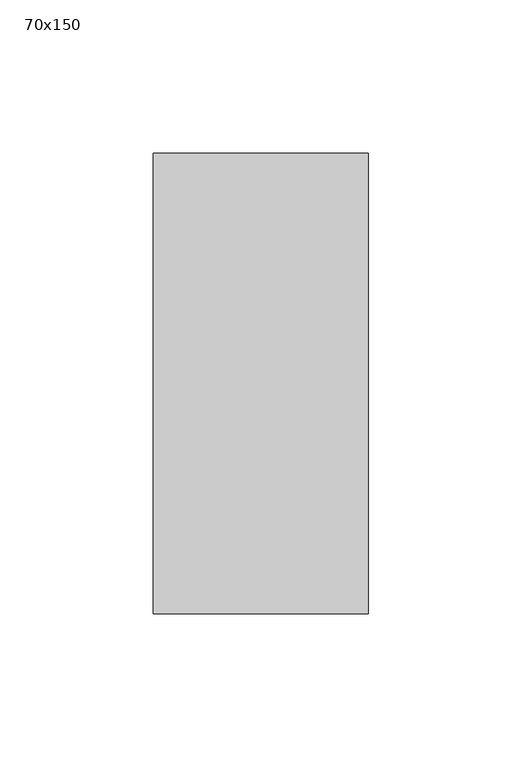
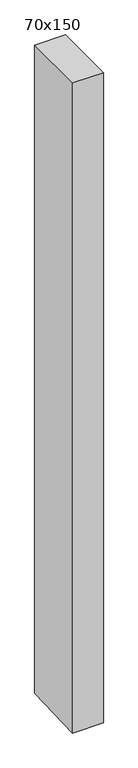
"""IFC4 building model written with IfcOpenShell, lengths in millimetres: member geometry, 長方形のマリオン : 70x150."""

import ifcopenshell
import ifcopenshell.guid

model = None  # the IFC model being written
_history = None  # IfcOwnerHistory: only IFC2X3 demands one
_inside = {}  # id of a spatial element -> (the spatial element, [elements in it])
_under = {}  # id of a project, library or spatial element -> (it, [spatial elements below it])
_declared = {}  # id of a project -> (the project, [libraries it declares])
_typed = {}  # id of a type object -> (the type object, [elements of that type])
_made_of = {}  # id of a material, layer set ... -> (it, [elements and type objects made of it])


def new_model(schema):
    """Start an empty IFC model of exactly this schema.

    Asked for "IFC4X3", IfcOpenShell would pick the latest addendum, in which some entities
    have other attributes; the version numbers below select the first issue.
    IFC2X3 requires an IfcOwnerHistory on every rooted entity: one is made here for all.
    """
    global model, _history
    if schema == "IFC4X3":
        model = ifcopenshell.file(schema_version=(4, 3, 0, 0))
    else:
        model = ifcopenshell.file(schema=schema)
    _inside.clear()
    _under.clear()
    _declared.clear()
    _typed.clear()
    _made_of.clear()
    _history = None
    if model.schema == "IFC2X3":
        org = make("IfcOrganization", Name="unknown")
        user = make(
            "IfcPersonAndOrganization",
            ThePerson=make("IfcPerson", FamilyName="unknown"),
            TheOrganization=org,
        )
        app = make(
            "IfcApplication",
            ApplicationDeveloper=org,
            Version="unknown",
            ApplicationFullName="unknown",
            ApplicationIdentifier="unknown",
        )
        _history = make(
            "IfcOwnerHistory",
            OwningUser=user,
            OwningApplication=app,
            ChangeAction="ADDED",
            CreationDate=0,
        )
    return model


def make(cls, **values):
    """One entity of the class cls with the attributes given. An attribute that is None is left unset."""
    return model.create_entity(
        cls, **{name: value for name, value in values.items() if value is not None}
    )


def rooted(cls, **values):
    """An entity with a GlobalId (a new one), such as an element, a storey or a relation."""
    return make(cls, GlobalId=ifcopenshell.guid.new(), OwnerHistory=_history, **values)


def si_unit(unit_type, name, prefix=None):
    """IfcSIUnit, for example si_unit("LENGTHUNIT", "METRE", prefix="MILLI")."""
    return make("IfcSIUnit", UnitType=unit_type, Prefix=prefix, Name=name)


def assignment(units):
    """IfcUnitAssignment: the units of a project."""
    return None if units is None else make("IfcUnitAssignment", Units=units)


def point(xyz):
    """IfcCartesianPoint."""
    return None if xyz is None else make("IfcCartesianPoint", Coordinates=xyz)


def direction(xyz):
    """IfcDirection."""
    return None if xyz is None else make("IfcDirection", DirectionRatios=xyz)


def frame(location, z_axis=None, x_axis=None):
    """IfcAxis2Placement3D, a coordinate frame: its origin and axes. An axis left out is left unset."""
    return make(
        "IfcAxis2Placement3D",
        Location=point(location),
        Axis=direction(z_axis),
        RefDirection=direction(x_axis),
    )


def origin():
    """The frame at (0, 0, 0) with its axes left unset."""
    return frame((0.0, 0.0, 0.0))


def place(relative_to, where):
    """IfcLocalPlacement: puts the frame where relative to a parent placement (None: the world)."""
    return make(
        "IfcLocalPlacement", PlacementRelTo=relative_to, RelativePlacement=where
    )


def context(
    kind, dimensions, precision=None, world=None, true_north=None, identifier=None
):
    """IfcGeometricRepresentationContext, for example the 3D "Model" context."""
    return make(
        "IfcGeometricRepresentationContext",
        ContextIdentifier=identifier,
        ContextType=kind,
        CoordinateSpaceDimension=dimensions,
        Precision=precision,
        WorldCoordinateSystem=world,
        TrueNorth=true_north,
    )


def project(units=None, contexts=None):
    """IfcProject with its units and contexts."""
    return rooted(
        "IfcProject",
        Name="project",
        RepresentationContexts=contexts,
        UnitsInContext=assignment(units),
    )


def spatial(cls, under=None, at=None, **own):
    """A site, building, storey or space (cls), placed at a placement, below another one or the project."""
    s = rooted(cls, ObjectPlacement=at, **own)
    if under is not None:
        _under.setdefault(under.id(), (under, []))[1].append(s)
    return s


def polyline(points):
    """IfcPolyline through the points."""
    return make("IfcPolyline", Points=[point(p) for p in points])


def outline(outer, holes=None, kind="AREA"):
    """IfcArbitraryClosedProfileDef: a profile drawn as a closed curve; with holes, ...WithVoids."""
    if holes is None:
        return make("IfcArbitraryClosedProfileDef", ProfileType=kind, OuterCurve=outer)
    return make(
        "IfcArbitraryProfileDefWithVoids",
        ProfileType=kind,
        OuterCurve=outer,
        InnerCurves=holes,
    )


def extrude(swept, where, along, depth):
    """IfcExtrudedAreaSolid: the profile swept, set in the frame where, extruded along a direction by depth."""
    return make(
        "IfcExtrudedAreaSolid",
        SweptArea=swept,
        Position=where,
        ExtrudedDirection=direction(along),
        Depth=depth,
    )


def shape(context_of_items, identifier, shape_type, items):
    """IfcShapeRepresentation: the items that make up one representation, for example the "Body"."""
    return make(
        "IfcShapeRepresentation",
        ContextOfItems=context_of_items,
        RepresentationIdentifier=identifier,
        RepresentationType=shape_type,
        Items=items,
    )


def source(mapping_origin, context_of_items, identifier, shape_type, items):
    """IfcRepresentationMap: a shape defined once, which mapped items show again and again."""
    return make(
        "IfcRepresentationMap",
        MappingOrigin=mapping_origin,
        MappedRepresentation=shape(context_of_items, identifier, shape_type, items),
    )


def transform(
    local_origin,
    x_axis=None,
    y_axis=None,
    z_axis=None,
    scale=None,
    scale2=None,
    scale3=None,
    uniform=True,
):
    """IfcCartesianTransformationOperator3D, or its non-uniform kind. x_axis, y_axis, z_axis: its Axis1, 2, 3."""
    if uniform:
        return make(
            "IfcCartesianTransformationOperator3D",
            Axis1=direction(x_axis),
            Axis2=direction(y_axis),
            LocalOrigin=point(local_origin),
            Scale=scale,
            Axis3=direction(z_axis),
        )
    return make(
        "IfcCartesianTransformationOperator3DnonUniform",
        Axis1=direction(x_axis),
        Axis2=direction(y_axis),
        LocalOrigin=point(local_origin),
        Scale=scale,
        Axis3=direction(z_axis),
        Scale2=scale2,
        Scale3=scale3,
    )


def mapped(mapping_source, mapping_target):
    """IfcMappedItem: shows the shape of a source again, moved by a transform."""
    return make(
        "IfcMappedItem", MappingSource=mapping_source, MappingTarget=mapping_target
    )


def made_of(thing, what):
    """Note that an element or type object is made of a material, layer set ...; save() writes the relation."""
    if what is not None:
        _made_of.setdefault(what.id(), (what, []))[1].append(thing)
    return thing


def element(
    cls,
    number,
    at=None,
    inside=None,
    cuts=None,
    type_object=None,
    material=None,
    context=None,
    identifier="Body",
    shape_type=None,
    held_by="IfcProductDefinitionShape",
    body=None,
    shapes=None,
    **own,
):
    """One element of the class cls, such as IfcWall. Its Tag is "e" and its number.

    at: its placement. inside: the storey or other place that contains it. cuts: it is an
    opening in that element (IfcRelVoidsElement). A single representation is given by context,
    identifier, shape_type and body (its items); several are given by shapes. held_by: the class
    of the entity that holds the representations. save() writes the other relations.
    """
    e = rooted(cls, Tag="e%d" % number, ObjectPlacement=at, **own)
    if body is not None:
        shapes = [shape(context, identifier, shape_type, body)]
    if shapes is not None:
        e.Representation = make(held_by, Representations=shapes)
    if inside is not None:
        _inside.setdefault(inside.id(), (inside, []))[1].append(e)
    if cuts is not None:
        rooted(
            "IfcRelVoidsElement", RelatingBuildingElement=cuts, RelatedOpeningElement=e
        )
    if type_object is not None:
        _typed.setdefault(type_object.id(), (type_object, []))[1].append(e)
    return made_of(e, material)


def aggregate(whole, parts):
    """IfcRelAggregates: a whole, such as a stair, and the parts it consists of."""
    return rooted("IfcRelAggregates", RelatingObject=whole, RelatedObjects=parts)


def save(model, path):
    """Write the relations noted so far, then the file.

    IfcRelAggregates (storeys below a building ...), IfcRelContainedInSpatialStructure (elements
    in a storey), IfcRelDefinesByType, IfcRelAssociatesMaterial and IfcRelDeclares: one each for
    every whole, place, type object, material and project.
    """
    for whole, parts in _under.values():
        aggregate(whole, parts)
    for where, things in _inside.values():
        rooted(
            "IfcRelContainedInSpatialStructure",
            RelatedElements=things,
            RelatingStructure=where,
        )
    for kind, things in _typed.values():
        rooted("IfcRelDefinesByType", RelatedObjects=things, RelatingType=kind)
    for what, things in _made_of.values():
        rooted("IfcRelAssociatesMaterial", RelatedObjects=things, RelatingMaterial=what)
    for by, libraries in _declared.values():
        rooted("IfcRelDeclares", RelatingContext=by, RelatedDefinitions=libraries)
    model.write(path)


def member_70x150_b56cabd7(model_context):
    return source(origin(), model_context, "Body", "SweptSolid", [
        extrude(outline(polyline([(-75.0, 0.0), (75.0, 0.0), (75.0, -1562.7028653), (-75.0, -1568.4330524), (-75.0, 0.0)])), frame((-70.0, 0.0, 0.0), z_axis=(1.0, 0.0, 0.0), x_axis=(0.0, 1.0, 0.0)), (0.0, 0.0, 1.0), 70.0),
    ])


if __name__ == "__main__":
    model = new_model("IFC4")
    model_context = context("Model", 3, world=origin())
    ifc_project = project(units=[si_unit("LENGTHUNIT", "METRE", prefix="MILLI")], contexts=[model_context])
    site = spatial("IfcSite", under=ifc_project)
    building = spatial("IfcBuilding", under=site)
    placement = place(None, origin())
    member_70x150_shape = member_70x150_b56cabd7(model_context)
    element("IfcMember", 1, ObjectType="長方形のマリオン : 70x150", at=placement, inside=building, context=model_context, shape_type="MappedRepresentation", body=[
        mapped(member_70x150_shape, transform((0.0, 0.0, 0.0), x_axis=(1.0, 0.0, 0.0), y_axis=(0.0, 1.0, 0.0), z_axis=(0.0, 0.0, 1.0))),
    ])
    save(model, "model.ifc")
